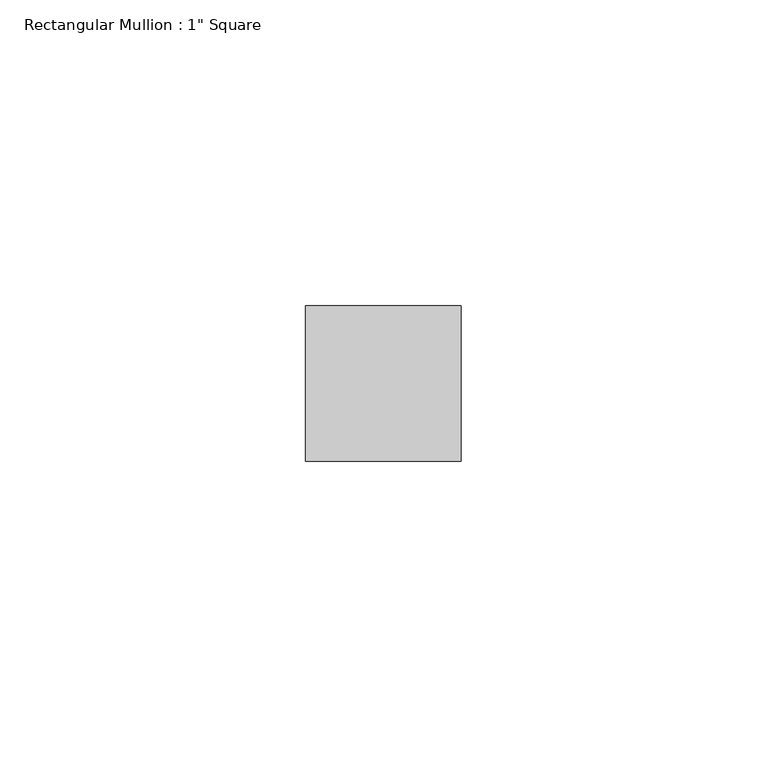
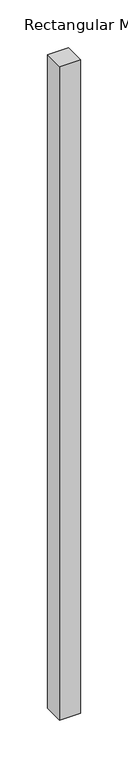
"""IFC4 building model written with IfcOpenShell, lengths in millimetres: member geometry."""

from ifc_helpers import new_model, si_unit, frame, origin, place, context, project, spatial, polyline, outline, extrude, source, transform, mapped, element, save


def member_335e9b28(model_context):
    return source(origin(), model_context, "Body", "SweptSolid", [
        extrude(outline(polyline([(12.7, 12.7), (12.7, -12.7), (-12.7, -12.7), (-12.7, 12.7), (12.7, 12.7)])), frame((0.0, 0.0, -838.1230041), z_axis=(0.0, 0.0, 1.0), x_axis=(1.0, 0.0, 0.0)), (0.0, 0.0, 1.0), 838.1230041),
    ])


if __name__ == "__main__":
    model = new_model("IFC4")
    model_context = context("Model", 3, world=origin())
    ifc_project = project(units=[si_unit("LENGTHUNIT", "METRE", prefix="MILLI")], contexts=[model_context])
    site = spatial("IfcSite", under=ifc_project)
    building = spatial("IfcBuilding", under=site)
    placement = place(None, origin())
    member_shape = member_335e9b28(model_context)
    element("IfcMember", 1, ObjectType="Rectangular Mullion : 1\" Square", at=placement, inside=building, context=model_context, shape_type="MappedRepresentation", body=[
        mapped(member_shape, transform((0.0, 0.0, 0.0), x_axis=(1.0, 0.0, 0.0), y_axis=(0.0, 1.0, 0.0), z_axis=(0.0, 0.0, 1.0))),
    ])
    save(model, "model.ifc")
